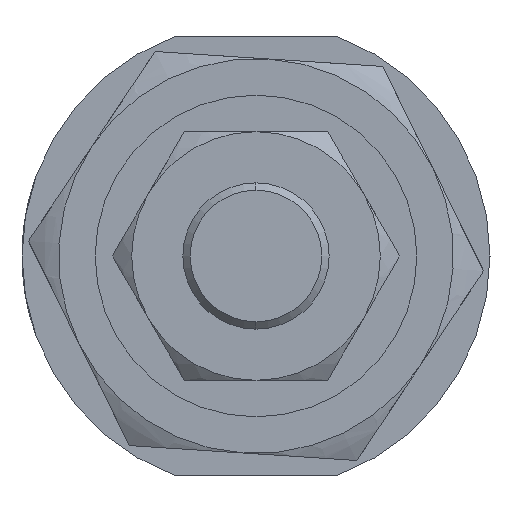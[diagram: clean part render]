
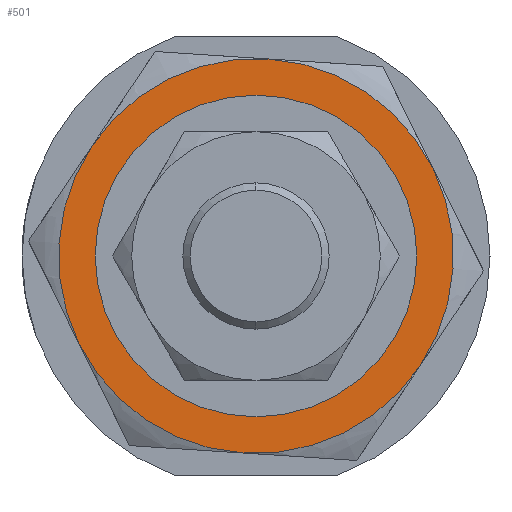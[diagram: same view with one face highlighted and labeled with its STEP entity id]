
A CAD part, left-side view. The second image highlights one B-rep face of the part: STEP entity #501.
In plain terms, the highlighted planar face has unit normal (-1, 0, 0) as drawn and (0, 0, -1) by its records, which use the part's own axes.
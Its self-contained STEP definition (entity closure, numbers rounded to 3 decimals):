
#66 = CARTESIAN_POINT ( 'NONE',  ( 0., 0., -5. ) ) ;
#139 = CIRCLE ( 'NONE', #2797, 13.5 ) ;
#162 = CIRCLE ( 'NONE', #418, 13.5 ) ;
#220 = EDGE_CURVE ( 'NONE', #1203, #1788, #2493, .T. ) ;
#298 = AXIS2_PLACEMENT_3D ( 'NONE', #2059, #2256, #2927 ) ;
#302 = CARTESIAN_POINT ( 'NONE',  ( 0., 0., -5. ) ) ;
#418 = AXIS2_PLACEMENT_3D ( 'NONE', #302, #2641, #1201 ) ;
#423 = DIRECTION ( 'NONE',  ( 0., 0., 1. ) ) ;
#488 = EDGE_CURVE ( 'NONE', #1884, #1904, #162, .T. ) ;
#501 = ADVANCED_FACE ( 'NONE', ( #2476, #925 ), #761, .F. ) ;
#510 = DIRECTION ( 'NONE',  ( 1., 0., 0. ) ) ;
#620 = DIRECTION ( 'NONE',  ( 1., 0., 0. ) ) ;
#662 = CARTESIAN_POINT ( 'NONE',  ( 6.75, 11.691, -5. ) ) ;
#704 = EDGE_CURVE ( 'NONE', #1846, #808, #2185, .T. ) ;
#760 = VERTEX_POINT ( 'NONE', #3267 ) ;
#761 = PLANE ( 'NONE',  #298 ) ;
#788 = DIRECTION ( 'NONE',  ( 0., 0., 1. ) ) ;
#808 = VERTEX_POINT ( 'NONE', #1315 ) ;
#820 = DIRECTION ( 'NONE',  ( 0., 0., 1. ) ) ;
#925 = FACE_OUTER_BOUND ( 'NONE', #1309, .T. ) ;
#1083 = DIRECTION ( 'NONE',  ( 0., 0., 1. ) ) ;
#1138 = ORIENTED_EDGE ( 'NONE', *, *, #704, .T. ) ;
#1142 = ORIENTED_EDGE ( 'NONE', *, *, #220, .F. ) ;
#1155 = EDGE_CURVE ( 'NONE', #1788, #1884, #3376, .T. ) ;
#1201 = DIRECTION ( 'NONE',  ( 1., 0., 0. ) ) ;
#1203 = VERTEX_POINT ( 'NONE', #1383 ) ;
#1239 = ORIENTED_EDGE ( 'NONE', *, *, #2369, .F. ) ;
#1309 = EDGE_LOOP ( 'NONE', ( #1239, #2248, #2633, #1902, #1142, #2933 ) ) ;
#1315 = CARTESIAN_POINT ( 'NONE',  ( 10., 0., -5. ) ) ;
#1352 = CARTESIAN_POINT ( 'NONE',  ( 0., 0., -5. ) ) ;
#1383 = CARTESIAN_POINT ( 'NONE',  ( -6.75, 11.691, -5. ) ) ;
#1546 = AXIS2_PLACEMENT_3D ( 'NONE', #3327, #820, #2697 ) ;
#1724 = DIRECTION ( 'NONE',  ( 1., 0., 0. ) ) ;
#1788 = VERTEX_POINT ( 'NONE', #2883 ) ;
#1810 = CARTESIAN_POINT ( 'NONE',  ( 0., 0., -5. ) ) ;
#1835 = VERTEX_POINT ( 'NONE', #662 ) ;
#1846 = VERTEX_POINT ( 'NONE', #1962 ) ;
#1861 = DIRECTION ( 'NONE',  ( 1., 0., 0. ) ) ;
#1884 = VERTEX_POINT ( 'NONE', #2928 ) ;
#1890 = CARTESIAN_POINT ( 'NONE',  ( 0., 0., -5. ) ) ;
#1902 = ORIENTED_EDGE ( 'NONE', *, *, #1155, .F. ) ;
#1904 = VERTEX_POINT ( 'NONE', #3227 ) ;
#1962 = CARTESIAN_POINT ( 'NONE',  ( -10., 0., -5. ) ) ;
#1969 = EDGE_CURVE ( 'NONE', #1835, #1203, #139, .T. ) ;
#2059 = CARTESIAN_POINT ( 'NONE',  ( 0., 0., -5. ) ) ;
#2124 = AXIS2_PLACEMENT_3D ( 'NONE', #2175, #2835, #620 ) ;
#2144 = AXIS2_PLACEMENT_3D ( 'NONE', #1810, #2228, #3127 ) ;
#2175 = CARTESIAN_POINT ( 'NONE',  ( 0., 0., -5. ) ) ;
#2185 = CIRCLE ( 'NONE', #2864, 10. ) ;
#2228 = DIRECTION ( 'NONE',  ( 0., 0., 1. ) ) ;
#2248 = ORIENTED_EDGE ( 'NONE', *, *, #2262, .F. ) ;
#2256 = DIRECTION ( 'NONE',  ( 0., 0., 1. ) ) ;
#2262 = EDGE_CURVE ( 'NONE', #1904, #760, #2722, .T. ) ;
#2369 = EDGE_CURVE ( 'NONE', #760, #1835, #3004, .T. ) ;
#2418 = DIRECTION ( 'NONE',  ( 1., 0., 0. ) ) ;
#2476 = FACE_BOUND ( 'NONE', #3018, .T. ) ;
#2493 = CIRCLE ( 'NONE', #2887, 13.5 ) ;
#2538 = ORIENTED_EDGE ( 'NONE', *, *, #3077, .T. ) ;
#2565 = CARTESIAN_POINT ( 'NONE',  ( 0., 0., -5. ) ) ;
#2633 = ORIENTED_EDGE ( 'NONE', *, *, #488, .F. ) ;
#2641 = DIRECTION ( 'NONE',  ( 0., 0., 1. ) ) ;
#2697 = DIRECTION ( 'NONE',  ( 1., 0., 0. ) ) ;
#2722 = CIRCLE ( 'NONE', #2124, 13.5 ) ;
#2797 = AXIS2_PLACEMENT_3D ( 'NONE', #1890, #423, #2418 ) ;
#2835 = DIRECTION ( 'NONE',  ( 0., 0., 1. ) ) ;
#2864 = AXIS2_PLACEMENT_3D ( 'NONE', #2565, #2886, #1861 ) ;
#2878 = AXIS2_PLACEMENT_3D ( 'NONE', #1352, #1083, #1724 ) ;
#2883 = CARTESIAN_POINT ( 'NONE',  ( -13.5, 0., -5. ) ) ;
#2886 = DIRECTION ( 'NONE',  ( 0., 0., 1. ) ) ;
#2887 = AXIS2_PLACEMENT_3D ( 'NONE', #66, #788, #510 ) ;
#2927 = DIRECTION ( 'NONE',  ( 1., 0., 0. ) ) ;
#2928 = CARTESIAN_POINT ( 'NONE',  ( -6.75, -11.691, -5. ) ) ;
#2933 = ORIENTED_EDGE ( 'NONE', *, *, #1969, .F. ) ;
#3004 = CIRCLE ( 'NONE', #2144, 13.5 ) ;
#3018 = EDGE_LOOP ( 'NONE', ( #2538, #1138 ) ) ;
#3077 = EDGE_CURVE ( 'NONE', #808, #1846, #3247, .T. ) ;
#3127 = DIRECTION ( 'NONE',  ( 1., 0., 0. ) ) ;
#3227 = CARTESIAN_POINT ( 'NONE',  ( 6.75, -11.691, -5. ) ) ;
#3247 = CIRCLE ( 'NONE', #2878, 10. ) ;
#3267 = CARTESIAN_POINT ( 'NONE',  ( 13.5, 0., -5. ) ) ;
#3327 = CARTESIAN_POINT ( 'NONE',  ( 0., 0., -5. ) ) ;
#3376 = CIRCLE ( 'NONE', #1546, 13.5 ) ;
